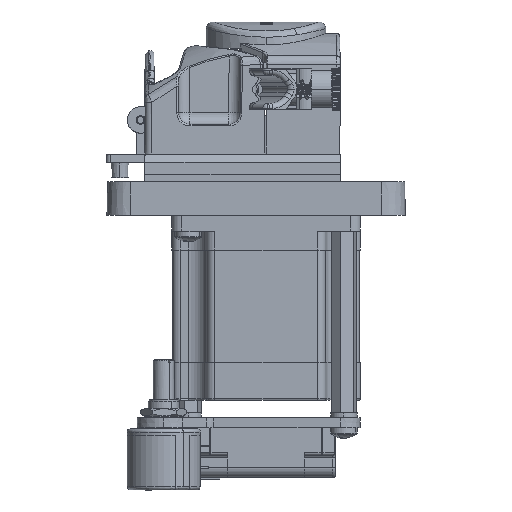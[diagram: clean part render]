
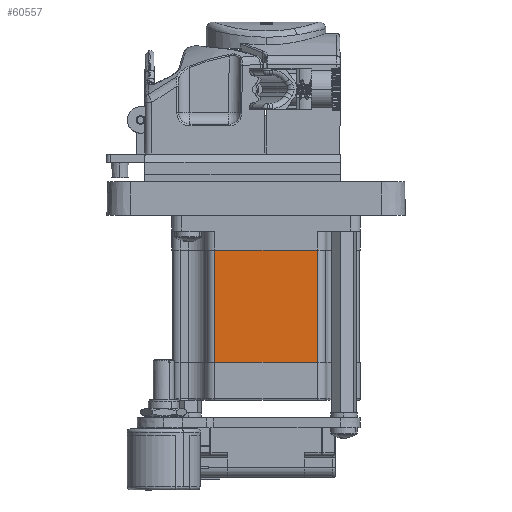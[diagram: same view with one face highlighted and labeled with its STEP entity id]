
A CAD part, left-side view. The second image highlights one B-rep face of the part: STEP entity #60557.
In plain terms, the highlighted planar face has unit normal (-1, 0, 0).
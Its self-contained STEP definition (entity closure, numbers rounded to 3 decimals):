
#9515 = ORIENTED_EDGE ( 'NONE', *, *, #44154, .T. ) ;
#15948 = CARTESIAN_POINT ( 'NONE',  ( -28.3, -15.57, -59.85 ) ) ;
#17179 = CARTESIAN_POINT ( 'NONE',  ( -28.3, -15.57, -25.85 ) ) ;
#17338 = VERTEX_POINT ( 'NONE', #27725 ) ;
#17563 = DIRECTION ( 'NONE',  ( 0., 0., -1. ) ) ;
#17945 = PLANE ( 'NONE',  #23678 ) ;
#18200 = DIRECTION ( 'NONE',  ( -1., 0., 0. ) ) ;
#18898 = CARTESIAN_POINT ( 'NONE',  ( -28.3, -15.57, 65.26 ) ) ;
#20395 = CARTESIAN_POINT ( 'NONE',  ( -28.3, 15.57, -59.85 ) ) ;
#23240 = LINE ( 'NONE', #15948, #49891 ) ;
#23678 = AXIS2_PLACEMENT_3D ( 'NONE', #34997, #18200, #57967 ) ;
#27725 = CARTESIAN_POINT ( 'NONE',  ( -28.3, -15.57, -25.85 ) ) ;
#27909 = ORIENTED_EDGE ( 'NONE', *, *, #61726, .F. ) ;
#28944 = CARTESIAN_POINT ( 'NONE',  ( -28.3, 15.57, 65.26 ) ) ;
#29193 = EDGE_CURVE ( 'NONE', #17338, #62977, #51302, .T. ) ;
#29724 = CARTESIAN_POINT ( 'NONE',  ( -28.3, -15.57, -59.85 ) ) ;
#33840 = EDGE_LOOP ( 'NONE', ( #37127, #9515, #27909, #64040 ) ) ;
#34349 = VECTOR ( 'NONE', #68286, 1000. ) ;
#34997 = CARTESIAN_POINT ( 'NONE',  ( -28.3, -15.57, 65.26 ) ) ;
#37127 = ORIENTED_EDGE ( 'NONE', *, *, #29193, .T. ) ;
#38786 = VERTEX_POINT ( 'NONE', #29724 ) ;
#40737 = VECTOR ( 'NONE', #17563, 1000. ) ;
#41669 = DIRECTION ( 'NONE',  ( 0., 0., -1. ) ) ;
#44010 = CARTESIAN_POINT ( 'NONE',  ( -28.3, 15.57, -25.85 ) ) ;
#44154 = EDGE_CURVE ( 'NONE', #62977, #69452, #52343, .T. ) ;
#49891 = VECTOR ( 'NONE', #61449, 1000. ) ;
#51302 = LINE ( 'NONE', #17179, #34349 ) ;
#52343 = LINE ( 'NONE', #28944, #40737 ) ;
#52696 = VECTOR ( 'NONE', #41669, 1000. ) ;
#57967 = DIRECTION ( 'NONE',  ( 0., 0., 1. ) ) ;
#60557 = ADVANCED_FACE ( 'NONE', ( #67782 ), #17945, .T. ) ;
#61449 = DIRECTION ( 'NONE',  ( 0., 1., 0. ) ) ;
#61726 = EDGE_CURVE ( 'NONE', #38786, #69452, #23240, .T. ) ;
#62977 = VERTEX_POINT ( 'NONE', #44010 ) ;
#64040 = ORIENTED_EDGE ( 'NONE', *, *, #70963, .F. ) ;
#67782 = FACE_OUTER_BOUND ( 'NONE', #33840, .T. ) ;
#67783 = LINE ( 'NONE', #18898, #52696 ) ;
#68286 = DIRECTION ( 'NONE',  ( 0., 1., 0. ) ) ;
#69452 = VERTEX_POINT ( 'NONE', #20395 ) ;
#70963 = EDGE_CURVE ( 'NONE', #17338, #38786, #67783, .T. ) ;
